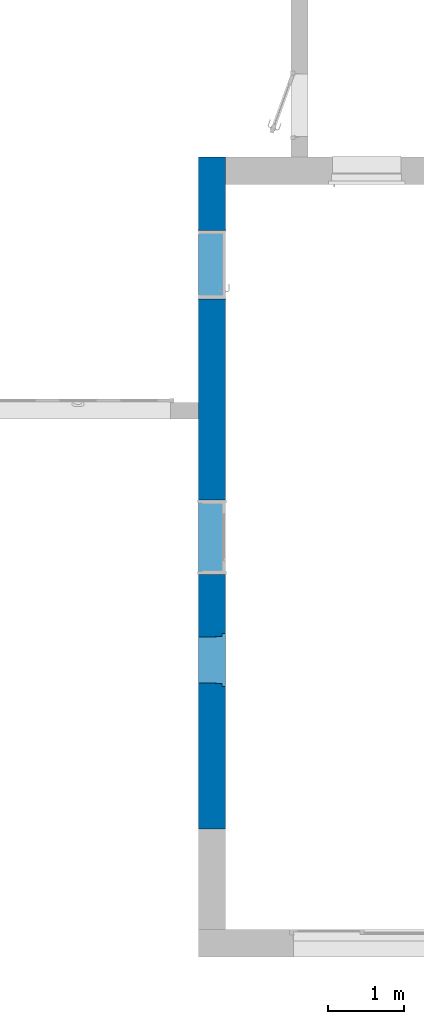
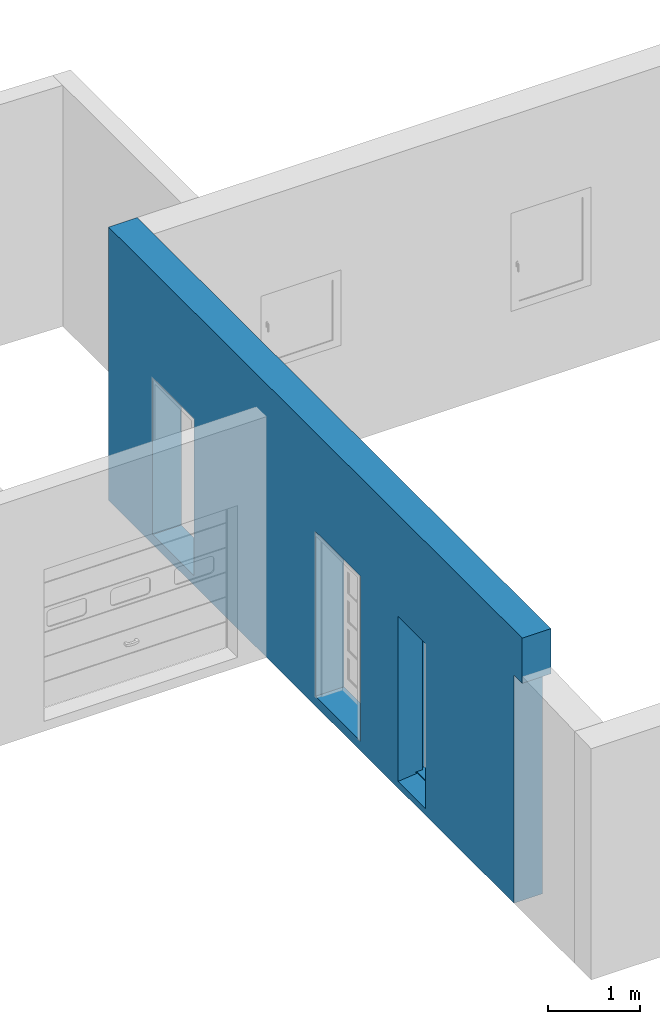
# One storey, part 4 of 8: 1 wall, 2 openings.
"""IFC2X3 building model written with IfcOpenShell, lengths in centimetres."""

from ifc_helpers import new_model, entity, si_unit, converted_unit, derived_unit, direction, frame, frame_2d, origin, place, context, subcontext, project, spatial, rectangle, extrude, faceted_brep, material, layer, layer_set, type_object, element, save


model = new_model("IFC2X3")

# Units and contexts
model_context = context("Model", 3, precision=0.001, world=origin(), true_north=direction((6.123031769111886e-17, 1.0)))
body_context = subcontext(model_context, "Body", "Model", "MODEL_VIEW")
ifc_project = project(units=[si_unit("LENGTHUNIT", "METRE", prefix="CENTI"), si_unit("AREAUNIT", "SQUARE_METRE"), si_unit("VOLUMEUNIT", "CUBIC_METRE"), converted_unit("PLANEANGLEUNIT", "DEGREE", entity("IfcRatioMeasure", 0.017453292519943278), si_unit("PLANEANGLEUNIT", "RADIAN"), dimensions=[0, 0, 0, 0, 0, 0, 0]), si_unit("MASSUNIT", "GRAM", prefix="KILO"), derived_unit("MASSDENSITYUNIT", [(si_unit("MASSUNIT", "GRAM", prefix="KILO"), 1), (si_unit("LENGTHUNIT", "METRE"), -3)]), derived_unit("MOMENTOFINERTIAUNIT", [(si_unit("LENGTHUNIT", "METRE"), 4)]), si_unit("TIMEUNIT", "SECOND"), si_unit("FREQUENCYUNIT", "HERTZ"), si_unit("THERMODYNAMICTEMPERATUREUNIT", "DEGREE_CELSIUS"), derived_unit("THERMALTRANSMITTANCEUNIT", [(si_unit("MASSUNIT", "GRAM", prefix="KILO"), 1), (si_unit("THERMODYNAMICTEMPERATUREUNIT", "KELVIN"), -1), (si_unit("TIMEUNIT", "SECOND"), -3)]), derived_unit("THERMALCONDUCTANCEUNIT", [(si_unit("MASSUNIT", "GRAM", prefix="KILO"), 1), (si_unit("LENGTHUNIT", "METRE"), 1), (si_unit("THERMODYNAMICTEMPERATUREUNIT", "KELVIN"), -1), (si_unit("TIMEUNIT", "SECOND"), -3)]), derived_unit("VOLUMETRICFLOWRATEUNIT", [(si_unit("LENGTHUNIT", "METRE"), 3), (si_unit("TIMEUNIT", "SECOND"), -1)]), derived_unit("MASSFLOWRATEUNIT", [(si_unit("MASSUNIT", "GRAM", prefix="KILO"), 1), (si_unit("TIMEUNIT", "SECOND"), -1)]), derived_unit("ROTATIONALFREQUENCYUNIT", [(si_unit("TIMEUNIT", "SECOND"), -1)]), si_unit("ELECTRICCURRENTUNIT", "AMPERE"), si_unit("ELECTRICVOLTAGEUNIT", "VOLT"), si_unit("POWERUNIT", "WATT"), si_unit("FORCEUNIT", "NEWTON", prefix="KILO"), si_unit("ILLUMINANCEUNIT", "LUX"), si_unit("LUMINOUSFLUXUNIT", "LUMEN"), si_unit("LUMINOUSINTENSITYUNIT", "CANDELA"), derived_unit("USERDEFINED", [(si_unit("MASSUNIT", "GRAM", prefix="KILO"), -1), (si_unit("LENGTHUNIT", "METRE"), -2), (si_unit("TIMEUNIT", "SECOND"), 3), (si_unit("LUMINOUSFLUXUNIT", "LUMEN"), 1)]), derived_unit("USERDEFINED", [(si_unit("MASSUNIT", "GRAM", prefix="KILO"), 1), (si_unit("LENGTHUNIT", "METRE"), 3), (si_unit("TIMEUNIT", "SECOND"), -3), (si_unit("ELECTRICCURRENTUNIT", "AMPERE"), -2)]), derived_unit("USERDEFINED", [(si_unit("LENGTHUNIT", "METRE"), 2), (si_unit("TIMEUNIT", "SECOND"), -2)]), derived_unit("SOUNDPOWERUNIT", [(si_unit("MASSUNIT", "GRAM", prefix="KILO"), 1), (si_unit("LENGTHUNIT", "METRE"), 2), (si_unit("TIMEUNIT", "SECOND"), -3)]), derived_unit("SOUNDPRESSUREUNIT", [(si_unit("MASSUNIT", "GRAM", prefix="KILO"), 1), (si_unit("LENGTHUNIT", "METRE"), -1), (si_unit("TIMEUNIT", "SECOND"), -2)]), derived_unit("LINEARVELOCITYUNIT", [(si_unit("LENGTHUNIT", "METRE"), 1), (si_unit("TIMEUNIT", "SECOND"), -1)]), si_unit("PRESSUREUNIT", "PASCAL"), derived_unit("USERDEFINED", [(si_unit("LENGTHUNIT", "METRE"), -2), (si_unit("MASSUNIT", "GRAM", prefix="KILO"), 1), (si_unit("TIMEUNIT", "SECOND"), -2)]), derived_unit("LINEARFORCEUNIT", [(si_unit("MASSUNIT", "GRAM", prefix="KILO"), 1), (si_unit("LENGTHUNIT", "METRE"), 1), (si_unit("TIMEUNIT", "SECOND"), -2), (si_unit("LENGTHUNIT", "METRE"), -1)]), derived_unit("PLANARFORCEUNIT", [(si_unit("MASSUNIT", "GRAM", prefix="KILO"), 1), (si_unit("LENGTHUNIT", "METRE"), 1), (si_unit("TIMEUNIT", "SECOND"), -2), (si_unit("LENGTHUNIT", "METRE"), -2)]), derived_unit("SPECIFICHEATCAPACITYUNIT", [(si_unit("LENGTHUNIT", "METRE"), 2), (si_unit("TIMEUNIT", "SECOND"), -2), (si_unit("THERMODYNAMICTEMPERATUREUNIT", "KELVIN"), -1)]), derived_unit("VAPORPERMEABILITYUNIT", [(si_unit("TIMEUNIT", "SECOND"), 1), (si_unit("LENGTHUNIT", "METRE"), -1)]), derived_unit("DYNAMICVISCOSITYUNIT", [(si_unit("MASSUNIT", "GRAM", prefix="KILO"), 1), (si_unit("LENGTHUNIT", "METRE"), -1), (si_unit("TIMEUNIT", "SECOND"), -1)]), derived_unit("THERMALEXPANSIONCOEFFICIENTUNIT", [(si_unit("THERMODYNAMICTEMPERATUREUNIT", "KELVIN"), -1)])], contexts=[model_context])

# Site, building, storey
site_placement = place(None, origin())
site = spatial("IfcSite", under=ifc_project, at=site_placement, Name="Default", CompositionType="ELEMENT")
building_placement = place(site_placement, origin())
building = spatial("IfcBuilding", under=site, at=building_placement, CompositionType="ELEMENT")
storey_placement = place(building_placement, frame((0.0, 0.0, -13.0)))
storey = spatial("IfcBuildingStorey", under=building, at=storey_placement, Name="0_-0.13", CompositionType="ELEMENT", Elevation=-13.000000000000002)

# Wall, openings
ifc_material_1 = material(Name="Maçonnerie - Enduit")
ifc_layer_1 = layer(ifc_material_1, 2.0)
ifc_material_2 = material(Name="Maçonnerie - Béton")
ifc_layer_2 = layer(ifc_material_2, 20.0)
ifc_material_3 = material(Name="Mur par défaut")
ifc_layer_3 = layer(ifc_material_3, 14.0)
ifc_layer_set = layer_set([ifc_layer_1, ifc_layer_2, ifc_layer_3], Name="Mur de base:Mur extérieur 36cm")
wall_type = type_object("IfcWallType", Name="Mur de base:Mur extérieur 36cm", PredefinedType="STANDARD", material=ifc_layer_set)
wall_placement = place(storey_placement, frame((-704.0684437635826, -521.3533541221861, 0.0), z_axis=(0.0, 0.0, 1.0), x_axis=(0.0, 1.0, 0.0)))
wall = element("IfcWall", 1, at=wall_placement, inside=storey, type_object=wall_type, Name="Mur de base:Mur extérieur 36cm", ObjectType="Mur de base:Mur extérieur 36cm", context=body_context, shape_type="Brep", body=[
    faceted_brep([(18.0, -18.0, 0.0), (864.0, -18.0, 0.0), (900.0, -18.0, 0.0), (900.0, -18.0, 363.0), (864.0, -18.0, 363.0), (691.0, -18.0, 363.0), (684.0, -18.0, 363.0), (0.0, -18.0, 363.0), (0.0, -18.0, 311.99444598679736), (0.0, -18.0, 303.0), (18.0, -18.0, 303.0), (270.0, -18.0, 13.0), (210.0, -18.0, 13.0), (205.0, -18.0, 13.0), (205.0, -18.0, 233.0), (275.0, -18.0, 233.0), (275.0, -18.0, 13.0), (352.1899999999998, -18.0, 13.0), (352.1899999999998, -18.0, 231.80999999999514), (449.80999999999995, -18.0, 231.80999999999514), (449.80999999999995, -18.0, 13.0), (804.0, -18.0, 13.0), (714.0, -18.0, 13.0), (714.0, -18.0, 220.5), (804.0, -18.0, 220.5), (900.0, 18.0, 0.0), (578.0, 18.0, 0.0), (556.0, 18.0, 0.0), (18.0, 18.0, 0.0), (18.0, 18.0, 303.0), (0.0, 18.0, 303.0), (0.0, 18.0, 311.99444598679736), (0.0, 18.0, 363.0), (900.0, 18.0, 363.0), (210.0, 18.0, 228.0), (210.0, 18.0, 8.977498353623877), (270.0, 18.0, 8.97749835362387), (270.0, 18.0, 228.0), (352.18999999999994, 18.0, 231.80999999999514), (352.1899999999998, 18.0, 13.0), (449.81000000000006, 18.0, 13.0), (449.81000000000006, 18.0, 231.80999999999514), (804.0, 18.0, 13.0), (804.0, 18.0, 220.5), (714.0, 18.0, 220.5), (714.0, 18.0, 13.0), (210.0, -6.0, 13.0), (210.0, -6.0, 11.500000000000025), (210.0, -4.0, 228.0), (210.0, -4.0, 13.0), (270.0, -6.0, 11.500000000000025), (270.0, -6.0, 13.0), (270.0, -4.0, 13.0), (270.0, -4.0, 228.0), (209.0, -4.0, 13.0), (209.0, -13.0, 13.0), (205.0, -13.0, 13.0), (275.0, -13.0, 13.0), (271.0, -13.0, 13.0), (271.0, -4.0, 13.0), (205.0, -13.0, 233.0), (275.0, -13.0, 233.0), (209.0, -13.0, 229.0), (271.0, -13.0, 229.0), (209.0, -4.0, 229.0), (271.0, -4.0, 229.0)], [[[0, 1, 2, 3, 4, 5, 6, 7, 8, 9, 10], [11, 12, 13, 14, 15, 16], [17, 18, 19, 20], [21, 22, 23, 24]], [[25, 26, 27, 28, 29, 30, 31, 32, 33], [34, 35, 36, 37], [38, 39, 40, 41], [42, 43, 44, 45]], [[2, 1, 0, 28, 27, 26, 25]], [[7, 6, 5, 4, 3, 33, 32]], [[3, 2, 25, 33]], [[46, 47, 35, 34, 48, 49]], [[50, 51, 52, 53, 37, 36]], [[46, 49, 54, 55, 56, 13, 12, 11, 16, 57, 58, 59, 52, 51]], [[53, 48, 34, 37]], [[47, 50, 36, 35]], [[47, 46, 51, 50]], [[13, 56, 60, 14]], [[58, 57, 61, 60, 56, 55, 62, 63]], [[55, 54, 64, 62]], [[49, 48, 53, 52, 59, 65, 64, 54]], [[14, 60, 61, 15]], [[63, 62, 64, 65]], [[57, 16, 15, 61]], [[59, 58, 63, 65]], [[17, 39, 38, 18]], [[18, 38, 41, 19]], [[19, 41, 40, 20]], [[39, 17, 20, 40]], [[28, 0, 10, 29]], [[30, 29, 10, 9]], [[7, 32, 31, 30, 9, 8]], [[43, 42, 21, 24]], [[44, 43, 24, 23]], [[45, 44, 23, 22]], [[42, 45, 22, 21]]]),
])
opening_1_placement = place(wall_placement, frame((449.8100000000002, 18.0, 13.0)))
element("IfcOpeningElement", 2, at=opening_1_placement, cuts=wall, Name="Porte d'entrée gris:90 x 215 cm:1", ObjectType="Opening", context=body_context, shape_type="SweptSolid", body=[
    extrude(rectangle(XDim=218.8099999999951, YDim=97.62000000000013, at=frame_2d((109.40499999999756, 48.810000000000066), x_axis=(1.0, 0.0))), frame((0.0, 0.0, 0.0), z_axis=(0.0, -1.0, 0.0), x_axis=(0.0, 0.0, 1.0)), (0.0, 0.0, 1.0), 36.0),
])
opening_2_placement = place(wall_placement, frame((804.0, 18.0, 13.0)))
element("IfcOpeningElement", 3, at=opening_2_placement, cuts=wall, Name="Int. Simple:PP (0.83m x 2.04m):1", ObjectType="Opening", context=body_context, shape_type="SweptSolid", body=[
    extrude(rectangle(XDim=207.49999999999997, YDim=90.0, at=frame_2d((103.74999999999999, 45.0), x_axis=(1.0, 0.0))), frame((0.0, 0.0, 0.0), z_axis=(0.0, -1.0, 0.0), x_axis=(0.0, 0.0, 1.0)), (0.0, 0.0, 1.0), 36.0),
])

save(model, "model.ifc")
